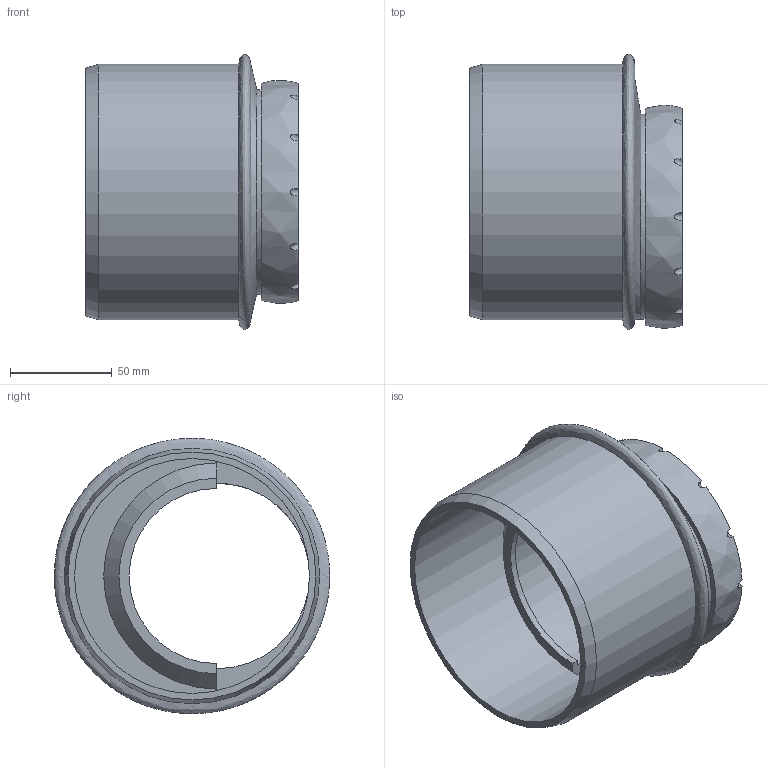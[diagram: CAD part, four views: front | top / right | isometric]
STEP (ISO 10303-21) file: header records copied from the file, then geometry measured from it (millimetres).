
FILE_DESCRIPTION(/* description */ (''),/* implementation_level */ '2;1');
FILE_NAME(/* name */ 'H:\Geberit-Teile\Export\Reduktion_ART\stp\393674.stp',/* time_stamp */ '2017-02-28T08:32:17+01:00',/* author */ ('seihe2'),/* organization */ (''),/* preprocessor_version */ 'ST-DEVELOPER v15.2',/* originating_system */ 'Autodesk Inventor 2014',/* authorisation */ '');
FILE_SCHEMA (('AUTOMOTIVE_DESIGN { 1 0 10303 214 3 1 1 }'));
Length unit declared in the file: millimetre
Products named in the file (1): 393674
Bounding box: 104.05 x 135 x 135 mm (x, y, z)
Volume: 270125.1 mm3; surface area: 107361.5 mm2
Topology: 1 solids, 1 shells, 35 faces, 89 edges, 59 vertices
Faces by surface type: cylinder 20, plane 10, bspline 3, cone 2
Full cylindrical faces by diameter (mm): 90.9 x1, 91.2 x1, 100.2 x1, 100.5 x1, 115.2 x1, 125.2 x1
Entity records: 1534 total; most frequent: CARTESIAN_POINT 647, DIRECTION 182, ORIENTED_EDGE 160, AXIS2_PLACEMENT_3D 84, EDGE_CURVE 80, VERTEX_POINT 57, EDGE_LOOP 47, CIRCLE 38
